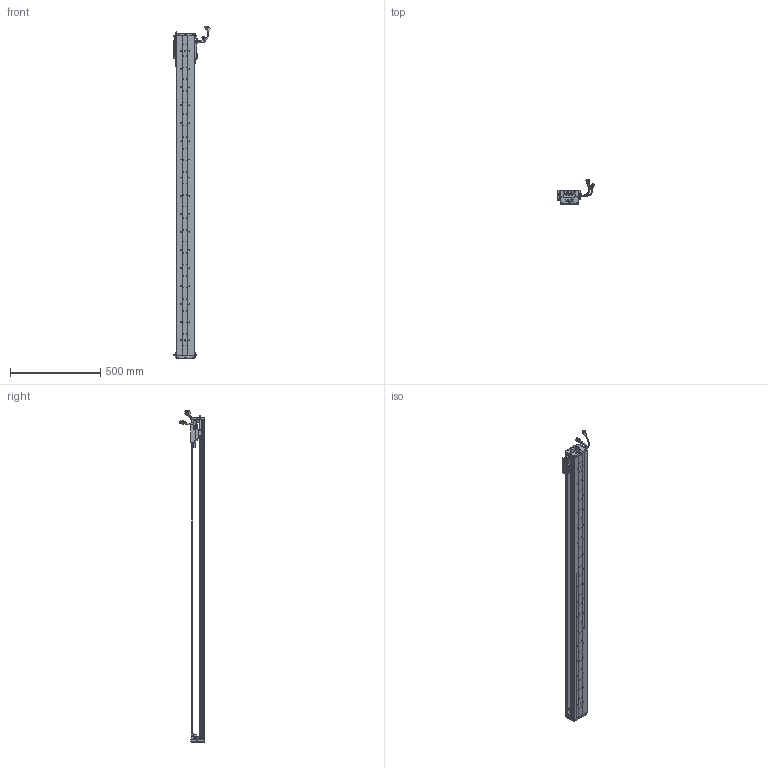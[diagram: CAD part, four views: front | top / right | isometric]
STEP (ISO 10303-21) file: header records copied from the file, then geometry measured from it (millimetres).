
FILE_DESCRIPTION (( 'STEP AP203' ), '1' );
FILE_NAME ('Z1-RY100D-1-L500-B-K.SLDASM_1600.step', '2021-05-17T01:42:11', ( '盈信电脑' ), ( '东莞市道滘镇水果街19号' ), 'SwSTEP 2.0', 'SolidWorks 2016', '' );
FILE_SCHEMA (( 'CONFIG_CONTROL_DESIGN' ));
Length unit declared in the file: millimetre
Products named in the file (36): COVER-Part-1; SCALE; LABEL; 140雄赽晤鎢ん堤盄; SCREW-M1.7-1; SEAL-Part-1; HARNESS-Part-1; SCALE-Part-2; Z-RY100D覜茼んえ; Z1-RY100-L500詩湍90mm遵_1600; SCREW-M1.6-3; PSLH080_PSLF2; SCREW-M1.7; 覜茼ん672; Z-RY100D詩湍狟揤裔; 140蚥薯蝶輸; SCREW-M1.6-1; SCREW-M1.6; 080黍杅芛假蚾釱21遴; LABEL-Part-1; PBU_SHEET; SEAL; HARNESS; SCREW-M1.6-2; 100-Z-臏賑輸盄裔(21遴); COVER; Z1-RY100D-1-L500-B-K.SLDASM_1600; HOLDER0; 榋妏寠巭燃_暯_M2_2; Z-100詩湍傷裔啣; SHIELDPLATE; Z1-RY100D-500-倰第菁釱_1600; HARNESS-Part-2; SCALE-Part-1; Z-RY100D詩湍奻揤裔; Z1-RY100铝滑块（21款）
Assembly tree (44 placements, depth 4):
  Z1-RY100D-1-L500-B-K.SLDASM_1600
    Z1-RY100D-500-倰第菁釱_1600
    Z1-RY100铝滑块（21款）
    PSLH080_PSLF2
      SCALE
        SCALE-Part-1
        SCALE-Part-2
      HARNESS
        HARNESS-Part-1
        HARNESS-Part-2
      LABEL
        LABEL-Part-1
      COVER
        COVER-Part-1
      SEAL
        SEAL-Part-1
      榋妏寠巭燃_暯_M2_2
      SHIELDPLATE
      SCREW-M1.7
      SCREW-M1.7-1
      PBU_SHEET
      SCREW-M1.6
      SCREW-M1.6-1
      SCREW-M1.6-2
      SCREW-M1.6-3
      HOLDER0
    080黍杅芛假蚾釱21遴
    Z-100詩湍傷裔啣  x2
    140蚥薯蝶輸  x2
    覜茼ん672  x4
    Z-RY100D覜茼んえ  x3
    100-Z-臏賑輸盄裔(21遴)
    140雄赽晤鎢ん堤盄
    Z1-RY100-L500詩湍90mm遵_1600
    Z-RY100D詩湍狟揤裔  x2
    Z-RY100D詩湍奻揤裔  x2
Bounding box: 205.83 x 136.11 x 1835.43 mm (x, y, z)
Volume: 3352124.2 mm3; surface area: 1335210.6 mm2
Topology: 39 solids, 39 shells, 2774 faces, 7441 edges, 4744 vertices
Faces by surface type: cylinder 1242, plane 1200, cone 210, torus 69, bspline 53
Entity records: 75221 total; most frequent: CARTESIAN_POINT 15881, DIRECTION 11947, ORIENTED_EDGE 11314, EDGE_CURVE 5657, AXIS2_PLACEMENT_3D 4422, VERTEX_POINT 3652, VECTOR 3103, LINE 3103
